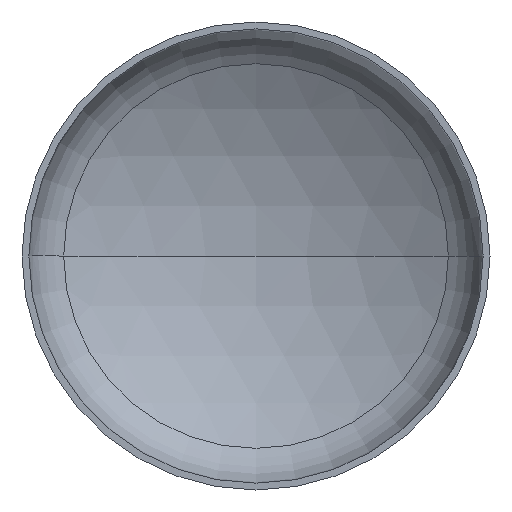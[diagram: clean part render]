
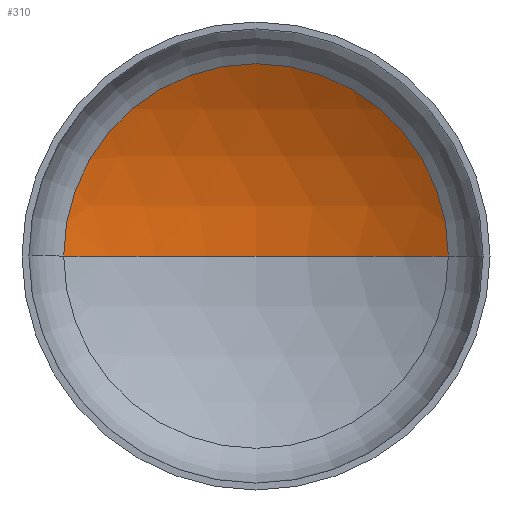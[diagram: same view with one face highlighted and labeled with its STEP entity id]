
A CAD part, front view. The second image highlights one B-rep face of the part: STEP entity #310.
In plain terms, the highlighted spherical face has radius 1360 mm.
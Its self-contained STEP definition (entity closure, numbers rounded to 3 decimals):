
#17 = EDGE_LOOP ( 'NONE', ( #96, #83, #42 ) ) ;
#19 = AXIS2_PLACEMENT_3D ( 'NONE', #245, #366, #165 ) ;
#28 = AXIS2_PLACEMENT_3D ( 'NONE', #134, #135, #141 ) ;
#30 = AXIS2_PLACEMENT_3D ( 'NONE', #205, #246, #49 ) ;
#32 = VERTEX_POINT ( 'NONE', #276 ) ;
#36 = VERTEX_POINT ( 'NONE', #281 ) ;
#42 = ORIENTED_EDGE ( 'NONE', *, *, #331, .T. ) ;
#49 = DIRECTION ( 'NONE',  ( -1., 0., 0. ) ) ;
#83 = ORIENTED_EDGE ( 'NONE', *, *, #340, .T. ) ;
#91 = DIRECTION ( 'NONE',  ( 1., 0., 0. ) ) ;
#96 = ORIENTED_EDGE ( 'NONE', *, *, #378, .F. ) ;
#126 = VERTEX_POINT ( 'NONE', #306 ) ;
#134 = CARTESIAN_POINT ( 'NONE',  ( 0., 298.082, 0. ) ) ;
#135 = DIRECTION ( 'NONE',  ( 0., -1., 0. ) ) ;
#141 = DIRECTION ( 'NONE',  ( 1., 0., 0. ) ) ;
#165 = DIRECTION ( 'NONE',  ( -1., 0., 0. ) ) ;
#178 = CARTESIAN_POINT ( 'NONE',  ( 0., -868.809, 0. ) ) ;
#205 = CARTESIAN_POINT ( 'NONE',  ( 0., -868.809, 0. ) ) ;
#245 = CARTESIAN_POINT ( 'NONE',  ( 0., -868.809, 0. ) ) ;
#246 = DIRECTION ( 'NONE',  ( 0., 0., -1. ) ) ;
#274 = SPHERICAL_SURFACE ( 'NONE', #30, 1360. ) ;
#276 = CARTESIAN_POINT ( 'NONE',  ( 0., 491.191, 0. ) ) ;
#281 = CARTESIAN_POINT ( 'NONE',  ( -698.545, 298.082, 0. ) ) ;
#306 = CARTESIAN_POINT ( 'NONE',  ( 698.545, 298.082, 0. ) ) ;
#310 = ADVANCED_FACE ( 'NONE', ( #348 ), #274, .F. ) ;
#312 = CIRCLE ( 'NONE', #384, 1360. ) ;
#319 = CIRCLE ( 'NONE', #19, 1360. ) ;
#327 = CIRCLE ( 'NONE', #28, 698.545 ) ;
#331 = EDGE_CURVE ( 'NONE', #126, #36, #327, .T. ) ;
#340 = EDGE_CURVE ( 'NONE', #32, #126, #319, .T. ) ;
#341 = DIRECTION ( 'NONE',  ( 0., 0., 1. ) ) ;
#348 = FACE_OUTER_BOUND ( 'NONE', #17, .T. ) ;
#366 = DIRECTION ( 'NONE',  ( 0., 0., -1. ) ) ;
#378 = EDGE_CURVE ( 'NONE', #32, #36, #312, .T. ) ;
#384 = AXIS2_PLACEMENT_3D ( 'NONE', #178, #341, #91 ) ;
